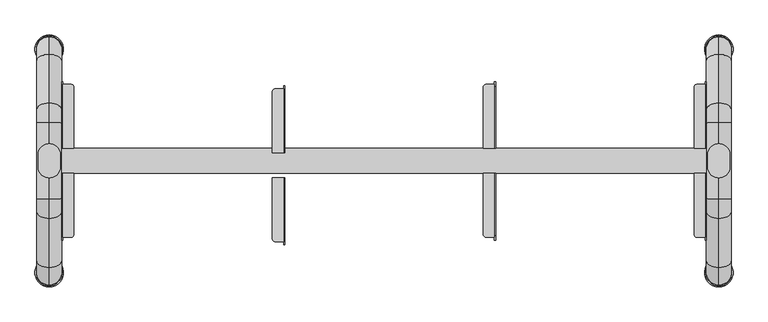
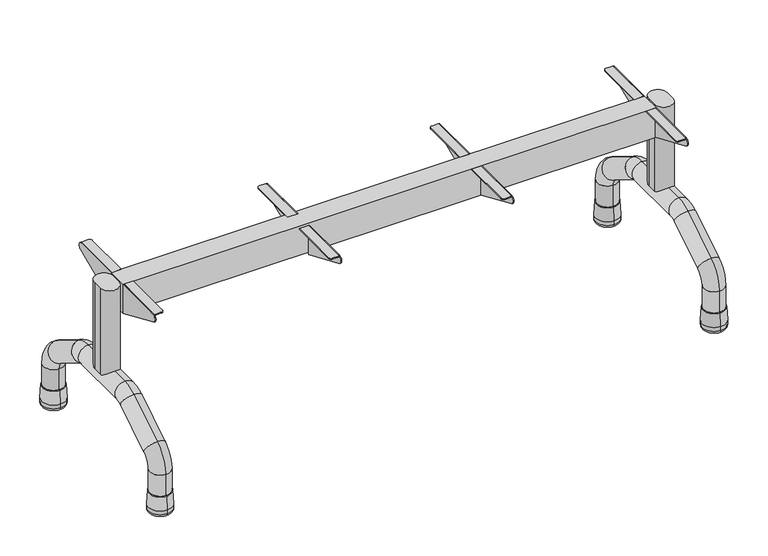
"""IFC4 building model written with IfcOpenShell, lengths in millimetres: furniture geometry, Banco para refeitório : Banco para refeitório 120x30cm cód 40470.4."""

from ifc_helpers import new_model, si_unit, point, frame, frame_2d, origin, place, context, project, spatial, polyline, circle_curve, ellipse_curve, trimmed, segment, composite_curve, outline, extrude, source, transform, mapped, element, save
from ifc_brep_helpers import plane_surface, cylinder_surface, revolved_surface, advanced_brep


def furniture_0d78d3c2(model_context):
    return source(origin(), model_context, "Body", "SolidModel", [
        extrude(outline(composite_curve([segment(trimmed(circle_curve(frame_2d((-540.0, -9.5)), 18.0), [point((-522.0, -9.5))], [point((-558.0, -9.5))], False, "CARTESIAN"), True, "CONTINUOUS"), segment(polyline([(-558.0, -9.5), (-558.0, 9.5)]), True, "CONTINUOUS"), segment(trimmed(circle_curve(frame_2d((-540.0, 9.5)), 18.0), [point((-558.0, 9.5))], [point((-522.0, 9.5))], False, "CARTESIAN"), True, "CONTINUOUS"), segment(polyline([(-522.0, 9.5), (-522.0, -9.5)]), True, "CONTINUOUS")], self_intersect=False)), frame((0.0, 0.0, 175.0), z_axis=(0.0, 0.0, 1.0), x_axis=(1.0, 0.0, 0.0)), (0.0, 0.0, 1.0), 187.0),
        advanced_brep(
        [(-540.0, -160.0, 43.1183008), (-540.0, -200.0, 43.1183008), (-540.0, -160.0, 86.179057), (-540.0, -200.0, 86.179057), (-540.0, -171.6393713, 137.1589568), (-540.0, -150.5464571, 103.1723569), (-540.0, -71.882227, 151.9932999), (-540.0, -92.9751412, 185.9798998), (-540.0, -61.3357699, 195.0), (-540.0, -61.3357699, 155.0), (-540.0, 61.3357699, 155.0), (-540.0, 61.3357699, 195.0), (-540.0, 160.0, 43.1183008), (-540.0, 200.0, 43.1183008), (-540.0, 92.9751412, 185.9798998), (-540.0, 71.882227, 151.9932999), (-540.0, 150.5464571, 103.1723569), (-540.0, 171.6393713, 137.1589568), (-540.0, 200.0, 86.179057), (-540.0, 160.0, 86.179057)],
        [
            (0, 1, circle_curve(frame((-540.0, -180.0, 43.1183008), z_axis=(0.0, 0.0, -1.0), x_axis=(0.0, -1.0, 0.0)), 20.0)),
            (1, 0, circle_curve(frame((-540.0, -180.0, 43.1183008), z_axis=(0.0, 0.0, -1.0), x_axis=(0.0, -1.0, 0.0)), 20.0)),
            (0, 2),
            (2, 3, circle_curve(frame((-540.0, -180.0, 86.179057), z_axis=(0.0, 0.0, -1.0), x_axis=(0.0, -1.0, 0.0)), 20.0)),
            (3, 1),
            (3, 2, circle_curve(frame((-540.0, -180.0, 86.179057), z_axis=(0.0, 0.0, -1.0), x_axis=(0.0, -1.0, 0.0)), 20.0)),
            (4, 5, circle_curve(frame((-540.0, -161.0929142, 120.1656569), z_axis=(0.0, 0.8496649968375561, 0.5273228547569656), x_axis=(0.0, -0.5273228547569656, 0.8496649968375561)), 20.0)),
            (5, 6),
            (6, 7, circle_curve(frame((-540.0, -82.4286841, 168.9865999), z_axis=(0.0, -0.8496649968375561, -0.5273228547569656), x_axis=(0.0, -0.5273228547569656, 0.8496649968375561)), 20.0)),
            (7, 4),
            (5, 4, circle_curve(frame((-540.0, -161.0929142, 120.1656569), z_axis=(0.0, 0.8496649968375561, 0.5273228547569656), x_axis=(0.0, -0.5273228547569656, 0.8496649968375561)), 20.0)),
            (7, 6, circle_curve(frame((-540.0, -82.4286841, 168.9865999), z_axis=(0.0, -0.8496649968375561, -0.5273228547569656), x_axis=(0.0, -0.5273228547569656, 0.8496649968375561)), 20.0)),
            (8, 9, circle_curve(frame((-540.0, -61.3357699, 175.0), z_axis=(0.0, 1.0, 0.0), x_axis=(0.0, 0.0, 1.0)), 20.0)),
            (9, 10),
            (10, 11, circle_curve(frame((-540.0, 61.3357699, 175.0), z_axis=(0.0, -1.0, 0.0), x_axis=(0.0, 0.0, 1.0)), 20.0)),
            (11, 8),
            (9, 8, circle_curve(frame((-540.0, -61.3357699, 175.0), z_axis=(0.0, 1.0, 0.0), x_axis=(0.0, 0.0, 1.0)), 20.0)),
            (11, 10, circle_curve(frame((-540.0, 61.3357699, 175.0), z_axis=(0.0, -1.0, 0.0), x_axis=(0.0, 0.0, 1.0)), 20.0)),
            (12, 13, circle_curve(frame((-540.0, 180.0, 43.1183008), z_axis=(0.0, 0.0, -1.0), x_axis=(0.0, 1.0, 0.0)), 20.0)),
            (13, 12, circle_curve(frame((-540.0, 180.0, 43.1183008), z_axis=(0.0, 0.0, -1.0), x_axis=(0.0, 1.0, 0.0)), 20.0)),
            (4, 3, circle_curve(frame((-540.0, -140.0, 86.179057), z_axis=(1.0, 0.0, 0.0), x_axis=(0.0, -1.0, 0.0)), 60.0)),
            (2, 5, circle_curve(frame((-540.0, -140.0, 86.179057), z_axis=(-1.0, 0.0, 0.0), x_axis=(0.0, -1.0, 0.0)), 20.0)),
            (8, 7, circle_curve(frame((-540.0, -61.3357699, 135.0), z_axis=(1.0, 0.0, 0.0), x_axis=(0.0, -0.5273228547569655, 0.8496649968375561)), 60.0)),
            (6, 9, circle_curve(frame((-540.0, -61.3357699, 135.0), z_axis=(-1.0, 0.0, 0.0), x_axis=(0.0, -0.5273228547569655, 0.8496649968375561)), 20.0)),
            (14, 11, circle_curve(frame((-540.0, 61.3357699, 135.0), z_axis=(1.0, 0.0, 0.0), x_axis=(0.0, 0.0, 1.0)), 60.0)),
            (10, 15, circle_curve(frame((-540.0, 61.3357699, 135.0), z_axis=(-1.0, 0.0, 0.0), x_axis=(0.0, 0.0, 1.0)), 20.0)),
            (15, 14, circle_curve(frame((-540.0, 82.4286841, 168.9865999), z_axis=(0.0, -0.8496649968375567, 0.5273228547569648), x_axis=(0.0, 0.5273228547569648, 0.8496649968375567)), 20.0)),
            (14, 15, circle_curve(frame((-540.0, 82.4286841, 168.9865999), z_axis=(0.0, -0.8496649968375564, 0.5273228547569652), x_axis=(0.0, 0.5273228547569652, 0.8496649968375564)), 20.0)),
            (15, 16),
            (16, 17, circle_curve(frame((-540.0, 161.0929142, 120.1656569), z_axis=(0.0, -0.849664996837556, 0.5273228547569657), x_axis=(0.0, 0.5273228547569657, 0.849664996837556)), 20.0)),
            (17, 14),
            (17, 16, circle_curve(frame((-540.0, 161.0929142, 120.1656569), z_axis=(0.0, -0.849664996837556, 0.5273228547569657), x_axis=(0.0, 0.5273228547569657, 0.849664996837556)), 20.0)),
            (18, 17, circle_curve(frame((-540.0, 140.0, 86.179057), z_axis=(1.0, 0.0, 0.0), x_axis=(0.0, 0.5273228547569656, 0.849664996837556)), 60.0)),
            (16, 19, circle_curve(frame((-540.0, 140.0, 86.179057), z_axis=(-1.0, 0.0, 0.0), x_axis=(0.0, 0.5273228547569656, 0.849664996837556)), 20.0)),
            (19, 18, circle_curve(frame((-540.0, 180.0, 86.179057), z_axis=(0.0, 0.0, 1.0), x_axis=(0.0, 1.0, 0.0)), 20.0)),
            (18, 19, circle_curve(frame((-540.0, 180.0, 86.179057), z_axis=(0.0, 0.0, 1.0), x_axis=(0.0, 1.0, 0.0)), 20.0)),
            (19, 12),
            (13, 18),
        ],
        [
            plane_surface(frame((-1230.0, -180.0, 43.1183008), z_axis=(0.0, 0.0, -1.0), x_axis=(1.0, 0.0, 0.0))),
            cylinder_surface(frame((-540.0, -180.0, 43.1183008), z_axis=(0.0, 0.0, -1.0), x_axis=(0.0, -1.0, 0.0)), 20.0),
            cylinder_surface(frame((-540.0, -161.0929142, 120.1656569), z_axis=(0.0, -0.8496649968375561, -0.5273228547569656), x_axis=(0.0, -0.5273228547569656, 0.8496649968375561)), 20.0),
            cylinder_surface(frame((-540.0, -61.3357699, 175.0), z_axis=(0.0, -1.0, 0.0), x_axis=(0.0, 0.0, 1.0)), 20.0),
            plane_surface(frame((-1230.0, 180.0, 43.1183008), z_axis=(0.0, 0.0, -1.0), x_axis=(1.0, 0.0, 0.0))),
            revolved_surface(trimmed(ellipse_curve(frame((-540.0, -180.0, 86.179057), z_axis=(0.0, 0.0, -1.0), x_axis=(0.0, -1.0, 0.0)), 20.0, 20.0), [point((-540.0, -160.0, 86.179057))], [point((-540.0, -200.0, 86.179057))], True, "CARTESIAN"), (-1230.0, -140.0, 86.179057), (-1.0, 0.0, 0.0)),
            revolved_surface(trimmed(ellipse_curve(frame((-540.0, -180.0, 86.179057), z_axis=(0.0, 0.0, -1.0), x_axis=(0.0, -1.0, 0.0)), 20.0, 20.0), [point((-540.0, -200.0, 86.179057))], [point((-540.0, -160.0, 86.179057))], True, "CARTESIAN"), (-1230.0, -140.0, 86.179057), (-1.0, 0.0, 0.0)),
            revolved_surface(trimmed(ellipse_curve(frame((-540.0, -82.4286841, 168.9865999), z_axis=(0.0, -0.8496649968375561, -0.5273228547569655), x_axis=(0.0, -0.5273228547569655, 0.8496649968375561)), 20.0, 20.0), [point((-540.0, -71.882227, 151.9932999))], [point((-540.0, -92.9751412, 185.9798998))], True, "CARTESIAN"), (-1230.0, -61.3357699, 135.0), (-1.0, 0.0, 0.0)),
            revolved_surface(trimmed(ellipse_curve(frame((-540.0, -82.4286841, 168.9865999), z_axis=(0.0, -0.8496649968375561, -0.5273228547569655), x_axis=(0.0, -0.5273228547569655, 0.8496649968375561)), 20.0, 20.0), [point((-540.0, -92.9751412, 185.9798998))], [point((-540.0, -71.882227, 151.9932999))], True, "CARTESIAN"), (-1230.0, -61.3357699, 135.0), (-1.0, 0.0, 0.0)),
            revolved_surface(trimmed(ellipse_curve(frame((-540.0, 61.3357699, 175.0), z_axis=(0.0, -1.0, 0.0), x_axis=(0.0, 0.0, 1.0)), 20.0, 20.0), [point((-540.0, 61.3357699, 155.0))], [point((-540.0, 61.3357699, 195.0))], True, "CARTESIAN"), (-1230.0, 61.3357699, 135.0), (-1.0, 0.0, 0.0)),
            revolved_surface(trimmed(ellipse_curve(frame((-540.0, 61.3357699, 175.0), z_axis=(0.0, -1.0, 0.0), x_axis=(0.0, 0.0, 1.0)), 20.0, 20.0), [point((-540.0, 61.3357699, 195.0))], [point((-540.0, 61.3357699, 155.0))], True, "CARTESIAN"), (-1230.0, 61.3357699, 135.0), (-1.0, 0.0, 0.0)),
            cylinder_surface(frame((-540.0, 82.4286841, 168.9865999), z_axis=(0.0, -0.849664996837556, 0.5273228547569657), x_axis=(0.0, 0.5273228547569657, 0.849664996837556)), 20.0),
            revolved_surface(trimmed(ellipse_curve(frame((-540.0, 161.0929142, 120.1656569), z_axis=(0.0, -0.8496649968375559, 0.5273228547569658), x_axis=(0.0, 0.5273228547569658, 0.8496649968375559)), 20.0, 20.0), [point((-540.0, 150.5464571, 103.1723569))], [point((-540.0, 171.6393713, 137.1589568))], True, "CARTESIAN"), (-1230.0, 140.0, 86.179057), (-1.0, 0.0, 0.0)),
            revolved_surface(trimmed(ellipse_curve(frame((-540.0, 161.0929142, 120.1656569), z_axis=(0.0, -0.8496649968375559, 0.5273228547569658), x_axis=(0.0, 0.5273228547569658, 0.8496649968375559)), 20.0, 20.0), [point((-540.0, 171.6393713, 137.1589568))], [point((-540.0, 150.5464571, 103.1723569))], True, "CARTESIAN"), (-1230.0, 140.0, 86.179057), (-1.0, 0.0, 0.0)),
            cylinder_surface(frame((-540.0, 180.0, 86.179057), z_axis=(0.0, 0.0, 1.0), x_axis=(0.0, 1.0, 0.0)), 20.0),
        ],
        [
            (0, [[1, 2]]),
            (1, [[-1, 3, 4, 5]]),
            (1, [[-2, -5, 6, -3]]),
            (2, [[7, 8, 9, 10]]),
            (2, [[11, -10, 12, -8]]),
            (3, [[13, 14, 15, 16]]),
            (3, [[17, -16, 18, -14]]),
            (4, [[19, 20]]),
            (5, [[21, -4, 22, -7]]),
            (6, [[-22, -6, -21, -11]]),
            (7, [[23, -9, 24, -13]]),
            (8, [[-24, -12, -23, -17]]),
            (9, [[25, -15, 26, 27]]),
            (10, [[-26, -18, -25, 28]]),
            (11, [[-27, 29, 30, 31]]),
            (11, [[-28, -31, 32, -29]]),
            (12, [[33, -30, 34, 35]]),
            (13, [[-34, -32, -33, 36]]),
            (14, [[-35, 37, -20, 38]]),
            (14, [[-36, -38, -19, -37]]),
        ],
    ),
        extrude(outline(composite_curve([segment(trimmed(circle_curve(frame_2d((540.0, -9.5)), 18.0), [point((558.0, -9.5))], [point((522.0, -9.5))], False, "CARTESIAN"), True, "CONTINUOUS"), segment(polyline([(522.0, -9.5), (522.0, 9.5)]), True, "CONTINUOUS"), segment(trimmed(circle_curve(frame_2d((540.0, 9.5)), 18.0), [point((522.0, 9.5))], [point((558.0, 9.5))], False, "CARTESIAN"), True, "CONTINUOUS"), segment(polyline([(558.0, 9.5), (558.0, -9.5)]), True, "CONTINUOUS")], self_intersect=False)), frame((0.0, 0.0, 175.0), z_axis=(0.0, 0.0, 1.0), x_axis=(1.0, 0.0, 0.0)), (0.0, 0.0, 1.0), 187.0),
        advanced_brep(
        [(540.0, -160.0, 43.1183008), (540.0, -200.0, 43.1183008), (540.0, -160.0, 86.179057), (540.0, -200.0, 86.179057), (540.0, -171.6393713, 137.1589568), (540.0, -150.5464571, 103.1723569), (540.0, -71.882227, 151.9932999), (540.0, -92.9751412, 185.9798998), (540.0, -61.3357699, 195.0), (540.0, -61.3357699, 155.0), (540.0, 61.3357699, 155.0), (540.0, 61.3357699, 195.0), (540.0, 160.0, 43.1183008), (540.0, 200.0, 43.1183008), (540.0, 92.9751412, 185.9798998), (540.0, 71.882227, 151.9932999), (540.0, 150.5464571, 103.1723569), (540.0, 171.6393713, 137.1589568), (540.0, 200.0, 86.179057), (540.0, 160.0, 86.179057)],
        [
            (0, 1, circle_curve(frame((540.0, -180.0, 43.1183008), z_axis=(0.0, 0.0, -1.0), x_axis=(0.0, -1.0, 0.0)), 20.0)),
            (1, 0, circle_curve(frame((540.0, -180.0, 43.1183008), z_axis=(0.0, 0.0, -1.0), x_axis=(0.0, -1.0, 0.0)), 20.0)),
            (0, 2),
            (2, 3, circle_curve(frame((540.0, -180.0, 86.179057), z_axis=(0.0, 0.0, -1.0), x_axis=(0.0, -1.0, 0.0)), 20.0)),
            (3, 1),
            (3, 2, circle_curve(frame((540.0, -180.0, 86.179057), z_axis=(0.0, 0.0, -1.0), x_axis=(0.0, -1.0, 0.0)), 20.0)),
            (4, 5, circle_curve(frame((540.0, -161.0929142, 120.1656569), z_axis=(0.0, 0.8496649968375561, 0.5273228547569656), x_axis=(0.0, -0.5273228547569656, 0.8496649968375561)), 20.0)),
            (5, 6),
            (6, 7, circle_curve(frame((540.0, -82.4286841, 168.9865999), z_axis=(0.0, -0.8496649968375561, -0.5273228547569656), x_axis=(0.0, -0.5273228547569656, 0.8496649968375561)), 20.0)),
            (7, 4),
            (5, 4, circle_curve(frame((540.0, -161.0929142, 120.1656569), z_axis=(0.0, 0.8496649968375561, 0.5273228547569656), x_axis=(0.0, -0.5273228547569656, 0.8496649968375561)), 20.0)),
            (7, 6, circle_curve(frame((540.0, -82.4286841, 168.9865999), z_axis=(0.0, -0.8496649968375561, -0.5273228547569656), x_axis=(0.0, -0.5273228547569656, 0.8496649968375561)), 20.0)),
            (8, 9, circle_curve(frame((540.0, -61.3357699, 175.0), z_axis=(0.0, 1.0, 0.0), x_axis=(0.0, 0.0, 1.0)), 20.0)),
            (9, 10),
            (10, 11, circle_curve(frame((540.0, 61.3357699, 175.0), z_axis=(0.0, -1.0, 0.0), x_axis=(0.0, 0.0, 1.0)), 20.0)),
            (11, 8),
            (9, 8, circle_curve(frame((540.0, -61.3357699, 175.0), z_axis=(0.0, 1.0, 0.0), x_axis=(0.0, 0.0, 1.0)), 20.0)),
            (11, 10, circle_curve(frame((540.0, 61.3357699, 175.0), z_axis=(0.0, -1.0, 0.0), x_axis=(0.0, 0.0, 1.0)), 20.0)),
            (12, 13, circle_curve(frame((540.0, 180.0, 43.1183008), z_axis=(0.0, 0.0, -1.0), x_axis=(0.0, 1.0, 0.0)), 20.0)),
            (13, 12, circle_curve(frame((540.0, 180.0, 43.1183008), z_axis=(0.0, 0.0, -1.0), x_axis=(0.0, 1.0, 0.0)), 20.0)),
            (4, 3, circle_curve(frame((540.0, -140.0, 86.179057), z_axis=(1.0, 0.0, 0.0), x_axis=(0.0, -1.0, 0.0)), 60.0)),
            (2, 5, circle_curve(frame((540.0, -140.0, 86.179057), z_axis=(-1.0, 0.0, 0.0), x_axis=(0.0, -1.0, 0.0)), 20.0)),
            (8, 7, circle_curve(frame((540.0, -61.3357699, 135.0), z_axis=(1.0, 0.0, 0.0), x_axis=(0.0, -0.5273228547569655, 0.8496649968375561)), 60.0)),
            (6, 9, circle_curve(frame((540.0, -61.3357699, 135.0), z_axis=(-1.0, 0.0, 0.0), x_axis=(0.0, -0.5273228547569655, 0.8496649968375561)), 20.0)),
            (14, 11, circle_curve(frame((540.0, 61.3357699, 135.0), z_axis=(1.0, 0.0, 0.0), x_axis=(0.0, 0.0, 1.0)), 60.0)),
            (10, 15, circle_curve(frame((540.0, 61.3357699, 135.0), z_axis=(-1.0, 0.0, 0.0), x_axis=(0.0, 0.0, 1.0)), 20.0)),
            (15, 14, circle_curve(frame((540.0, 82.4286841, 168.9865999), z_axis=(0.0, -0.8496649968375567, 0.5273228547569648), x_axis=(0.0, 0.5273228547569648, 0.8496649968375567)), 20.0)),
            (14, 15, circle_curve(frame((540.0, 82.4286841, 168.9865999), z_axis=(0.0, -0.8496649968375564, 0.5273228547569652), x_axis=(0.0, 0.5273228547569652, 0.8496649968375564)), 20.0)),
            (15, 16),
            (16, 17, circle_curve(frame((540.0, 161.0929142, 120.1656569), z_axis=(0.0, -0.849664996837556, 0.5273228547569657), x_axis=(0.0, 0.5273228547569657, 0.849664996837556)), 20.0)),
            (17, 14),
            (17, 16, circle_curve(frame((540.0, 161.0929142, 120.1656569), z_axis=(0.0, -0.849664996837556, 0.5273228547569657), x_axis=(0.0, 0.5273228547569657, 0.849664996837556)), 20.0)),
            (18, 17, circle_curve(frame((540.0, 140.0, 86.179057), z_axis=(1.0, 0.0, 0.0), x_axis=(0.0, 0.5273228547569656, 0.849664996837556)), 60.0)),
            (16, 19, circle_curve(frame((540.0, 140.0, 86.179057), z_axis=(-1.0, 0.0, 0.0), x_axis=(0.0, 0.5273228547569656, 0.849664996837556)), 20.0)),
            (19, 18, circle_curve(frame((540.0, 180.0, 86.179057), z_axis=(0.0, 0.0, 1.0), x_axis=(0.0, 1.0, 0.0)), 20.0)),
            (18, 19, circle_curve(frame((540.0, 180.0, 86.179057), z_axis=(0.0, 0.0, 1.0), x_axis=(0.0, 1.0, 0.0)), 20.0)),
            (19, 12),
            (13, 18),
        ],
        [
            plane_surface(frame((-150.0, -180.0, 43.1183008), z_axis=(0.0, 0.0, -1.0), x_axis=(1.0, 0.0, 0.0))),
            cylinder_surface(frame((540.0, -180.0, 43.1183008), z_axis=(0.0, 0.0, -1.0), x_axis=(0.0, -1.0, 0.0)), 20.0),
            cylinder_surface(frame((540.0, -161.0929142, 120.1656569), z_axis=(0.0, -0.8496649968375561, -0.5273228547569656), x_axis=(0.0, -0.5273228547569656, 0.8496649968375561)), 20.0),
            cylinder_surface(frame((540.0, -61.3357699, 175.0), z_axis=(0.0, -1.0, 0.0), x_axis=(0.0, 0.0, 1.0)), 20.0),
            plane_surface(frame((-150.0, 180.0, 43.1183008), z_axis=(0.0, 0.0, -1.0), x_axis=(1.0, 0.0, 0.0))),
            revolved_surface(trimmed(ellipse_curve(frame((540.0, -180.0, 86.179057), z_axis=(0.0, 0.0, -1.0), x_axis=(0.0, -1.0, 0.0)), 20.0, 20.0), [point((540.0, -160.0, 86.179057))], [point((540.0, -200.0, 86.179057))], True, "CARTESIAN"), (-150.0, -140.0, 86.179057), (-1.0, 0.0, 0.0)),
            revolved_surface(trimmed(ellipse_curve(frame((540.0, -180.0, 86.179057), z_axis=(0.0, 0.0, -1.0), x_axis=(0.0, -1.0, 0.0)), 20.0, 20.0), [point((540.0, -200.0, 86.179057))], [point((540.0, -160.0, 86.179057))], True, "CARTESIAN"), (-150.0, -140.0, 86.179057), (-1.0, 0.0, 0.0)),
            revolved_surface(trimmed(ellipse_curve(frame((540.0, -82.4286841, 168.9865999), z_axis=(0.0, -0.8496649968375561, -0.5273228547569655), x_axis=(0.0, -0.5273228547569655, 0.8496649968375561)), 20.0, 20.0), [point((540.0, -71.882227, 151.9932999))], [point((540.0, -92.9751412, 185.9798998))], True, "CARTESIAN"), (-150.0, -61.3357699, 135.0), (-1.0, 0.0, 0.0)),
            revolved_surface(trimmed(ellipse_curve(frame((540.0, -82.4286841, 168.9865999), z_axis=(0.0, -0.8496649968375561, -0.5273228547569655), x_axis=(0.0, -0.5273228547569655, 0.8496649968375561)), 20.0, 20.0), [point((540.0, -92.9751412, 185.9798998))], [point((540.0, -71.882227, 151.9932999))], True, "CARTESIAN"), (-150.0, -61.3357699, 135.0), (-1.0, 0.0, 0.0)),
            revolved_surface(trimmed(ellipse_curve(frame((540.0, 61.3357699, 175.0), z_axis=(0.0, -1.0, 0.0), x_axis=(0.0, 0.0, 1.0)), 20.0, 20.0), [point((540.0, 61.3357699, 155.0))], [point((540.0, 61.3357699, 195.0))], True, "CARTESIAN"), (-150.0, 61.3357699, 135.0), (-1.0, 0.0, 0.0)),
            revolved_surface(trimmed(ellipse_curve(frame((540.0, 61.3357699, 175.0), z_axis=(0.0, -1.0, 0.0), x_axis=(0.0, 0.0, 1.0)), 20.0, 20.0), [point((540.0, 61.3357699, 195.0))], [point((540.0, 61.3357699, 155.0))], True, "CARTESIAN"), (-150.0, 61.3357699, 135.0), (-1.0, 0.0, 0.0)),
            cylinder_surface(frame((540.0, 82.4286841, 168.9865999), z_axis=(0.0, -0.849664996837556, 0.5273228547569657), x_axis=(0.0, 0.5273228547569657, 0.849664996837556)), 20.0),
            revolved_surface(trimmed(ellipse_curve(frame((540.0, 161.0929142, 120.1656569), z_axis=(0.0, -0.8496649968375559, 0.5273228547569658), x_axis=(0.0, 0.5273228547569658, 0.8496649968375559)), 20.0, 20.0), [point((540.0, 150.5464571, 103.1723569))], [point((540.0, 171.6393713, 137.1589568))], True, "CARTESIAN"), (-150.0, 140.0, 86.179057), (-1.0, 0.0, 0.0)),
            revolved_surface(trimmed(ellipse_curve(frame((540.0, 161.0929142, 120.1656569), z_axis=(0.0, -0.8496649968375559, 0.5273228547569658), x_axis=(0.0, 0.5273228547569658, 0.8496649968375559)), 20.0, 20.0), [point((540.0, 171.6393713, 137.1589568))], [point((540.0, 150.5464571, 103.1723569))], True, "CARTESIAN"), (-150.0, 140.0, 86.179057), (-1.0, 0.0, 0.0)),
            cylinder_surface(frame((540.0, 180.0, 86.179057), z_axis=(0.0, 0.0, 1.0), x_axis=(0.0, 1.0, 0.0)), 20.0),
        ],
        [
            (0, [[1, 2]]),
            (1, [[-1, 3, 4, 5]]),
            (1, [[-2, -5, 6, -3]]),
            (2, [[7, 8, 9, 10]]),
            (2, [[11, -10, 12, -8]]),
            (3, [[13, 14, 15, 16]]),
            (3, [[17, -16, 18, -14]]),
            (4, [[19, 20]]),
            (5, [[21, -4, 22, -7]]),
            (6, [[-22, -6, -21, -11]]),
            (7, [[23, -9, 24, -13]]),
            (8, [[-24, -12, -23, -17]]),
            (9, [[25, -15, 26, 27]]),
            (10, [[-26, -18, -25, 28]]),
            (11, [[-27, 29, 30, 31]]),
            (11, [[-28, -31, 32, -29]]),
            (12, [[33, -30, 34, 35]]),
            (13, [[-34, -32, -33, 36]]),
            (14, [[-35, 37, -20, 38]]),
            (14, [[-36, -38, -19, -37]]),
        ],
    ),
        advanced_brep(
        [(-540.0, 200.5839249, 42.9792915), (-540.0, 201.212521, 42.3931162), (-540.0, 158.787479, 42.3931162), (-540.0, 159.4160751, 42.9792915), (-540.0, 203.125, 15.0433923), (-540.0, 156.875, 15.0433923), (-540.0, 203.125, 7.2213749), (-540.0, 156.875, 7.2213749), (-540.0, 196.0093092, 0.1056841), (-540.0, 163.9906908, 0.1056841), (-540.0, 180.0, 0.1056841), (-540.0, 180.0, 42.9792915)],
        [
            (0, 1, circle_curve(frame((-540.0, 200.5839249, 42.3491605), z_axis=(-1.0, 0.0, 0.0), x_axis=(0.0, -1.0, 0.0)), 0.630131)),
            (1, 2, circle_curve(frame((-540.0, 180.0, 42.3931162), z_axis=(0.0, 0.0, 1.0), x_axis=(0.0, -1.0, 0.0)), 21.212521)),
            (2, 3, circle_curve(frame((-540.0, 159.4160751, 42.3491605), z_axis=(-1.0, 0.0, 0.0), x_axis=(0.0, 1.0, 0.0)), 0.630131)),
            (3, 0, circle_curve(frame((-540.0, 180.0, 42.9792915), z_axis=(0.0, 0.0, -1.0), x_axis=(0.0, -1.0, 0.0)), 20.5839249)),
            (2, 1, circle_curve(frame((-540.0, 180.0, 42.3931162), z_axis=(0.0, 0.0, 1.0), x_axis=(0.0, -1.0, 0.0)), 21.212521)),
            (0, 3, circle_curve(frame((-540.0, 180.0, 42.9792915), z_axis=(0.0, 0.0, -1.0), x_axis=(0.0, -1.0, 0.0)), 20.5839249)),
            (1, 4),
            (4, 5, circle_curve(frame((-540.0, 180.0, 15.0433923), z_axis=(0.0, 0.0, 1.0), x_axis=(0.0, -1.0, 0.0)), 23.125)),
            (5, 2),
            (5, 4, circle_curve(frame((-540.0, 180.0, 15.0433923), z_axis=(0.0, 0.0, 1.0), x_axis=(0.0, -1.0, 0.0)), 23.125)),
            (4, 6),
            (6, 7, circle_curve(frame((-540.0, 180.0, 7.2213749), z_axis=(0.0, 0.0, 1.0), x_axis=(0.0, -1.0, 0.0)), 23.125)),
            (7, 5),
            (7, 6, circle_curve(frame((-540.0, 180.0, 7.2213749), z_axis=(0.0, 0.0, 1.0), x_axis=(0.0, -1.0, 0.0)), 23.125)),
            (6, 8, circle_curve(frame((-540.0, 196.0093092, 7.2213749), z_axis=(-1.0, 0.0, 0.0), x_axis=(0.0, -1.0, 0.0)), 7.1156908)),
            (8, 9, circle_curve(frame((-540.0, 180.0, 0.1056841), z_axis=(0.0, 0.0, 1.0), x_axis=(0.0, -1.0, 0.0)), 16.0093092)),
            (9, 7, circle_curve(frame((-540.0, 163.9906908, 7.2213749), z_axis=(-1.0, 0.0, 0.0), x_axis=(0.0, 1.0, 0.0)), 7.1156908)),
            (9, 8, circle_curve(frame((-540.0, 180.0, 0.1056841), z_axis=(0.0, 0.0, 1.0), x_axis=(0.0, -1.0, 0.0)), 16.0093092)),
            (8, 10),
            (10, 9),
            (11, 0),
            (3, 11),
        ],
        [
            revolved_surface(trimmed(ellipse_curve(frame((-540.0, 159.4160751, 42.3491605), z_axis=(-1.0, 0.0, 0.0), x_axis=(0.0, 1.0, 0.0)), 0.630131, 0.630131), [point((-540.0, 158.787479, 42.3931162))], [point((-540.0, 159.4160751, 42.9792915))], True, "CARTESIAN"), (-540.0, 180.0, 0.1056841), (0.0, 0.0, 1.0)),
            revolved_surface(polyline([(-540.0, 156.875, 15.0433923), (-540.0, 158.787479, 42.3931162)]), (-540.0, 180.0, 0.1056841), (0.0, 0.0, 1.0)),
            cylinder_surface(frame((-540.0, 180.0, 0.1056841), z_axis=(0.0, 0.0, 1.0), x_axis=(0.0, -1.0, 0.0)), 23.125),
            revolved_surface(trimmed(ellipse_curve(frame((-540.0, 163.9906908, 7.2213749), z_axis=(-1.0, 0.0, 0.0), x_axis=(0.0, 1.0, 0.0)), 7.1156908, 7.1156908), [point((-540.0, 163.9906908, 0.1056841))], [point((-540.0, 156.875, 7.2213749))], True, "CARTESIAN"), (-540.0, 180.0, 0.1056841), (0.0, 0.0, 1.0)),
            plane_surface(frame((-540.0, 180.0, 0.1056841), z_axis=(0.0, 0.0, -1.0), x_axis=(0.0, -1.0, 0.0))),
            plane_surface(frame((-540.0, 180.0, 42.9792915), z_axis=(0.0, 0.0, 1.0), x_axis=(0.0, -1.0, 0.0))),
        ],
        [
            (0, [[1, 2, 3, 4]]),
            (0, [[-3, 5, -1, 6]]),
            (1, [[7, 8, 9, -2]]),
            (1, [[-9, 10, -7, -5]]),
            (2, [[11, 12, 13, -8]]),
            (2, [[-13, 14, -11, -10]]),
            (3, [[15, 16, 17, -12]]),
            (3, [[-17, 18, -15, -14]]),
            (4, [[19, 20, -16]]),
            (4, [[-20, -19, -18]]),
            (5, [[21, -4, 22]]),
            (5, [[-22, -6, -21]]),
        ],
    ),
        advanced_brep(
        [(-540.0, -159.4160751, 42.9792915), (-540.0, -158.787479, 42.3931162), (-540.0, -201.212521, 42.3931162), (-540.0, -200.5839249, 42.9792915), (-540.0, -156.875, 15.0433923), (-540.0, -203.125, 15.0433923), (-540.0, -156.875, 7.2213749), (-540.0, -203.125, 7.2213749), (-540.0, -163.9906908, 0.1056841), (-540.0, -196.0093092, 0.1056841), (-540.0, -180.0, 0.1056841), (-540.0, -180.0, 42.9792915)],
        [
            (0, 1, circle_curve(frame((-540.0, -159.4160751, 42.3491605), z_axis=(-1.0, 0.0, 0.0), x_axis=(0.0, -1.0, 0.0)), 0.630131)),
            (1, 2, circle_curve(frame((-540.0, -180.0, 42.3931162), z_axis=(0.0, 0.0, 1.0), x_axis=(0.0, -1.0, 0.0)), 21.212521)),
            (2, 3, circle_curve(frame((-540.0, -200.5839249, 42.3491605), z_axis=(-1.0, 0.0, 0.0), x_axis=(0.0, 1.0, 0.0)), 0.630131)),
            (3, 0, circle_curve(frame((-540.0, -180.0, 42.9792915), z_axis=(0.0, 0.0, -1.0), x_axis=(0.0, -1.0, 0.0)), 20.5839249)),
            (2, 1, circle_curve(frame((-540.0, -180.0, 42.3931162), z_axis=(0.0, 0.0, 1.0), x_axis=(0.0, -1.0, 0.0)), 21.212521)),
            (0, 3, circle_curve(frame((-540.0, -180.0, 42.9792915), z_axis=(0.0, 0.0, -1.0), x_axis=(0.0, -1.0, 0.0)), 20.5839249)),
            (1, 4),
            (4, 5, circle_curve(frame((-540.0, -180.0, 15.0433923), z_axis=(0.0, 0.0, 1.0), x_axis=(0.0, -1.0, 0.0)), 23.125)),
            (5, 2),
            (5, 4, circle_curve(frame((-540.0, -180.0, 15.0433923), z_axis=(0.0, 0.0, 1.0), x_axis=(0.0, -1.0, 0.0)), 23.125)),
            (4, 6),
            (6, 7, circle_curve(frame((-540.0, -180.0, 7.2213749), z_axis=(0.0, 0.0, 1.0), x_axis=(0.0, -1.0, 0.0)), 23.125)),
            (7, 5),
            (7, 6, circle_curve(frame((-540.0, -180.0, 7.2213749), z_axis=(0.0, 0.0, 1.0), x_axis=(0.0, -1.0, 0.0)), 23.125)),
            (6, 8, circle_curve(frame((-540.0, -163.9906908, 7.2213749), z_axis=(-1.0, 0.0, 0.0), x_axis=(0.0, -1.0, 0.0)), 7.1156908)),
            (8, 9, circle_curve(frame((-540.0, -180.0, 0.1056841), z_axis=(0.0, 0.0, 1.0), x_axis=(0.0, -1.0, 0.0)), 16.0093092)),
            (9, 7, circle_curve(frame((-540.0, -196.0093092, 7.2213749), z_axis=(-1.0, 0.0, 0.0), x_axis=(0.0, 1.0, 0.0)), 7.1156908)),
            (9, 8, circle_curve(frame((-540.0, -180.0, 0.1056841), z_axis=(0.0, 0.0, 1.0), x_axis=(0.0, -1.0, 0.0)), 16.0093092)),
            (8, 10),
            (10, 9),
            (11, 0),
            (3, 11),
        ],
        [
            revolved_surface(trimmed(ellipse_curve(frame((-540.0, -200.5839249, 42.3491605), z_axis=(-1.0, 0.0, 0.0), x_axis=(0.0, 1.0, 0.0)), 0.630131, 0.630131), [point((-540.0, -201.212521, 42.3931162))], [point((-540.0, -200.5839249, 42.9792915))], True, "CARTESIAN"), (-540.0, -180.0, 0.1056841), (0.0, 0.0, 1.0)),
            revolved_surface(polyline([(-540.0, -203.125, 15.0433923), (-540.0, -201.212521, 42.3931162)]), (-540.0, -180.0, 0.1056841), (0.0, 0.0, 1.0)),
            cylinder_surface(frame((-540.0, -180.0, 0.1056841), z_axis=(0.0, 0.0, 1.0), x_axis=(0.0, -1.0, 0.0)), 23.125),
            revolved_surface(trimmed(ellipse_curve(frame((-540.0, -196.0093092, 7.2213749), z_axis=(-1.0, 0.0, 0.0), x_axis=(0.0, 1.0, 0.0)), 7.1156908, 7.1156908), [point((-540.0, -196.0093092, 0.1056841))], [point((-540.0, -203.125, 7.2213749))], True, "CARTESIAN"), (-540.0, -180.0, 0.1056841), (0.0, 0.0, 1.0)),
            plane_surface(frame((-540.0, -180.0, 0.1056841), z_axis=(0.0, 0.0, -1.0), x_axis=(0.0, -1.0, 0.0))),
            plane_surface(frame((-540.0, -180.0, 42.9792915), z_axis=(0.0, 0.0, 1.0), x_axis=(0.0, -1.0, 0.0))),
        ],
        [
            (0, [[1, 2, 3, 4]]),
            (0, [[-3, 5, -1, 6]]),
            (1, [[7, 8, 9, -2]]),
            (1, [[-9, 10, -7, -5]]),
            (2, [[11, 12, 13, -8]]),
            (2, [[-13, 14, -11, -10]]),
            (3, [[15, 16, 17, -12]]),
            (3, [[-17, 18, -15, -14]]),
            (4, [[19, 20, -16]]),
            (4, [[-20, -19, -18]]),
            (5, [[21, -4, 22]]),
            (5, [[-22, -6, -21]]),
        ],
    ),
        advanced_brep(
        [(540.0, 200.5839249, 42.9792915), (540.0, 159.4160751, 42.9792915), (540.0, 158.787479, 42.3931162), (540.0, 201.212521, 42.3931162), (540.0, 156.875, 15.0433923), (540.0, 203.125, 15.0433923), (540.0, 156.875, 7.2213749), (540.0, 203.125, 7.2213749), (540.0, 163.9906908, 0.1056841), (540.0, 196.0093092, 0.1056841), (540.0, 180.0, 0.1056841), (540.0, 180.0, 42.9792915)],
        [
            (0, 1, circle_curve(frame((540.0, 180.0, 42.9792915), z_axis=(0.0, 0.0, -1.0), x_axis=(0.0, -1.0, 0.0)), 20.5839249)),
            (1, 2, circle_curve(frame((540.0, 159.4160751, 42.3491605), z_axis=(1.0, 0.0, 0.0), x_axis=(0.0, 1.0, 0.0)), 0.630131)),
            (2, 3, circle_curve(frame((540.0, 180.0, 42.3931162), z_axis=(0.0, 0.0, 1.0), x_axis=(0.0, -1.0, 0.0)), 21.212521)),
            (3, 0, circle_curve(frame((540.0, 200.5839249, 42.3491605), z_axis=(1.0, 0.0, 0.0), x_axis=(0.0, -1.0, 0.0)), 0.630131)),
            (1, 0, circle_curve(frame((540.0, 180.0, 42.9792915), z_axis=(0.0, 0.0, -1.0), x_axis=(0.0, -1.0, 0.0)), 20.5839249)),
            (3, 2, circle_curve(frame((540.0, 180.0, 42.3931162), z_axis=(0.0, 0.0, 1.0), x_axis=(0.0, -1.0, 0.0)), 21.212521)),
            (2, 4),
            (4, 5, circle_curve(frame((540.0, 180.0, 15.0433923), z_axis=(0.0, 0.0, 1.0), x_axis=(0.0, -1.0, 0.0)), 23.125)),
            (5, 3),
            (5, 4, circle_curve(frame((540.0, 180.0, 15.0433923), z_axis=(0.0, 0.0, 1.0), x_axis=(0.0, -1.0, 0.0)), 23.125)),
            (4, 6),
            (6, 7, circle_curve(frame((540.0, 180.0, 7.2213749), z_axis=(0.0, 0.0, 1.0), x_axis=(0.0, -1.0, 0.0)), 23.125)),
            (7, 5),
            (7, 6, circle_curve(frame((540.0, 180.0, 7.2213749), z_axis=(0.0, 0.0, 1.0), x_axis=(0.0, -1.0, 0.0)), 23.125)),
            (6, 8, circle_curve(frame((540.0, 163.9906908, 7.2213749), z_axis=(1.0, 0.0, 0.0), x_axis=(0.0, 1.0, 0.0)), 7.1156908)),
            (8, 9, circle_curve(frame((540.0, 180.0, 0.1056841), z_axis=(0.0, 0.0, 1.0), x_axis=(0.0, -1.0, 0.0)), 16.0093092)),
            (9, 7, circle_curve(frame((540.0, 196.0093092, 7.2213749), z_axis=(1.0, 0.0, 0.0), x_axis=(0.0, -1.0, 0.0)), 7.1156908)),
            (9, 8, circle_curve(frame((540.0, 180.0, 0.1056841), z_axis=(0.0, 0.0, 1.0), x_axis=(0.0, -1.0, 0.0)), 16.0093092)),
            (8, 10),
            (10, 9),
            (11, 1),
            (0, 11),
        ],
        [
            revolved_surface(trimmed(ellipse_curve(frame((540.0, 159.4160751, 42.3491605), z_axis=(-1.0, 0.0, 0.0), x_axis=(0.0, 1.0, 0.0)), 0.630131, 0.630131), [point((540.0, 158.787479, 42.3931162))], [point((540.0, 159.4160751, 42.9792915))], True, "CARTESIAN"), (540.0, 180.0, 0.1056841), (0.0, 0.0, 1.0)),
            revolved_surface(polyline([(540.0, 156.875, 15.0433923), (540.0, 158.787479, 42.3931162)]), (540.0, 180.0, 0.1056841), (0.0, 0.0, 1.0)),
            cylinder_surface(frame((540.0, 180.0, 0.1056841), z_axis=(0.0, 0.0, 1.0), x_axis=(0.0, -1.0, 0.0)), 23.125),
            revolved_surface(trimmed(ellipse_curve(frame((540.0, 163.9906908, 7.2213749), z_axis=(-1.0, 0.0, 0.0), x_axis=(0.0, 1.0, 0.0)), 7.1156908, 7.1156908), [point((540.0, 163.9906908, 0.1056841))], [point((540.0, 156.875, 7.2213749))], True, "CARTESIAN"), (540.0, 180.0, 0.1056841), (0.0, 0.0, 1.0)),
            plane_surface(frame((540.0, 180.0, 0.1056841), z_axis=(0.0, 0.0, -1.0), x_axis=(0.0, -1.0, 0.0))),
            plane_surface(frame((540.0, 180.0, 42.9792915), z_axis=(0.0, 0.0, 1.0), x_axis=(0.0, -1.0, 0.0))),
        ],
        [
            (0, [[1, 2, 3, 4]]),
            (0, [[5, -4, 6, -2]]),
            (1, [[-3, 7, 8, 9]]),
            (1, [[-6, -9, 10, -7]]),
            (2, [[-8, 11, 12, 13]]),
            (2, [[-10, -13, 14, -11]]),
            (3, [[-12, 15, 16, 17]]),
            (3, [[-14, -17, 18, -15]]),
            (4, [[-16, 19, 20]]),
            (4, [[-18, -20, -19]]),
            (5, [[21, -1, 22]]),
            (5, [[-22, -5, -21]]),
        ],
    ),
        advanced_brep(
        [(540.0, -159.4160751, 42.9792915), (540.0, -200.5839249, 42.9792915), (540.0, -201.212521, 42.3931162), (540.0, -158.787479, 42.3931162), (540.0, -203.125, 15.0433923), (540.0, -156.875, 15.0433923), (540.0, -203.125, 7.2213749), (540.0, -156.875, 7.2213749), (540.0, -196.0093092, 0.1056841), (540.0, -163.9906908, 0.1056841), (540.0, -180.0, 0.1056841), (540.0, -180.0, 42.9792915)],
        [
            (0, 1, circle_curve(frame((540.0, -180.0, 42.9792915), z_axis=(0.0, 0.0, -1.0), x_axis=(0.0, -1.0, 0.0)), 20.5839249)),
            (1, 2, circle_curve(frame((540.0, -200.5839249, 42.3491605), z_axis=(1.0, 0.0, 0.0), x_axis=(0.0, 1.0, 0.0)), 0.630131)),
            (2, 3, circle_curve(frame((540.0, -180.0, 42.3931162), z_axis=(0.0, 0.0, 1.0), x_axis=(0.0, -1.0, 0.0)), 21.212521)),
            (3, 0, circle_curve(frame((540.0, -159.4160751, 42.3491605), z_axis=(1.0, 0.0, 0.0), x_axis=(0.0, -1.0, 0.0)), 0.630131)),
            (1, 0, circle_curve(frame((540.0, -180.0, 42.9792915), z_axis=(0.0, 0.0, -1.0), x_axis=(0.0, -1.0, 0.0)), 20.5839249)),
            (3, 2, circle_curve(frame((540.0, -180.0, 42.3931162), z_axis=(0.0, 0.0, 1.0), x_axis=(0.0, -1.0, 0.0)), 21.212521)),
            (2, 4),
            (4, 5, circle_curve(frame((540.0, -180.0, 15.0433923), z_axis=(0.0, 0.0, 1.0), x_axis=(0.0, -1.0, 0.0)), 23.125)),
            (5, 3),
            (5, 4, circle_curve(frame((540.0, -180.0, 15.0433923), z_axis=(0.0, 0.0, 1.0), x_axis=(0.0, -1.0, 0.0)), 23.125)),
            (4, 6),
            (6, 7, circle_curve(frame((540.0, -180.0, 7.2213749), z_axis=(0.0, 0.0, 1.0), x_axis=(0.0, -1.0, 0.0)), 23.125)),
            (7, 5),
            (7, 6, circle_curve(frame((540.0, -180.0, 7.2213749), z_axis=(0.0, 0.0, 1.0), x_axis=(0.0, -1.0, 0.0)), 23.125)),
            (6, 8, circle_curve(frame((540.0, -196.0093092, 7.2213749), z_axis=(1.0, 0.0, 0.0), x_axis=(0.0, 1.0, 0.0)), 7.1156908)),
            (8, 9, circle_curve(frame((540.0, -180.0, 0.1056841), z_axis=(0.0, 0.0, 1.0), x_axis=(0.0, -1.0, 0.0)), 16.0093092)),
            (9, 7, circle_curve(frame((540.0, -163.9906908, 7.2213749), z_axis=(1.0, 0.0, 0.0), x_axis=(0.0, -1.0, 0.0)), 7.1156908)),
            (9, 8, circle_curve(frame((540.0, -180.0, 0.1056841), z_axis=(0.0, 0.0, 1.0), x_axis=(0.0, -1.0, 0.0)), 16.0093092)),
            (8, 10),
            (10, 9),
            (11, 1),
            (0, 11),
        ],
        [
            revolved_surface(trimmed(ellipse_curve(frame((540.0, -200.5839249, 42.3491605), z_axis=(-1.0, 0.0, 0.0), x_axis=(0.0, 1.0, 0.0)), 0.630131, 0.630131), [point((540.0, -201.212521, 42.3931162))], [point((540.0, -200.5839249, 42.9792915))], True, "CARTESIAN"), (540.0, -180.0, 0.1056841), (0.0, 0.0, 1.0)),
            revolved_surface(polyline([(540.0, -203.125, 15.0433923), (540.0, -201.212521, 42.3931162)]), (540.0, -180.0, 0.1056841), (0.0, 0.0, 1.0)),
            cylinder_surface(frame((540.0, -180.0, 0.1056841), z_axis=(0.0, 0.0, 1.0), x_axis=(0.0, -1.0, 0.0)), 23.125),
            revolved_surface(trimmed(ellipse_curve(frame((540.0, -196.0093092, 7.2213749), z_axis=(-1.0, 0.0, 0.0), x_axis=(0.0, 1.0, 0.0)), 7.1156908, 7.1156908), [point((540.0, -196.0093092, 0.1056841))], [point((540.0, -203.125, 7.2213749))], True, "CARTESIAN"), (540.0, -180.0, 0.1056841), (0.0, 0.0, 1.0)),
            plane_surface(frame((540.0, -180.0, 0.1056841), z_axis=(0.0, 0.0, -1.0), x_axis=(0.0, -1.0, 0.0))),
            plane_surface(frame((540.0, -180.0, 42.9792915), z_axis=(0.0, 0.0, 1.0), x_axis=(0.0, -1.0, 0.0))),
        ],
        [
            (0, [[1, 2, 3, 4]]),
            (0, [[5, -4, 6, -2]]),
            (1, [[-3, 7, 8, 9]]),
            (1, [[-6, -9, 10, -7]]),
            (2, [[-8, 11, 12, 13]]),
            (2, [[-10, -13, 14, -11]]),
            (3, [[-12, 15, 16, 17]]),
            (3, [[-14, -17, 18, -15]]),
            (4, [[-16, 19, 20]]),
            (4, [[-18, -20, -19]]),
            (5, [[21, -1, 22]]),
            (5, [[-22, -5, -21]]),
        ],
    ),
        extrude(outline(composite_curve([segment(polyline([(-162.0, -27.0176362), (-162.0, -130.2831504), (-175.0, -130.2831504)]), True, "CONTINUOUS"), segment(trimmed(circle_curve(frame_2d((-175.0, -125.2831504)), 5.0), [point((-175.0, -130.2831504))], [point((-180.0, -125.2831504))], False, "CARTESIAN"), True, "CONTINUOUS"), segment(polyline([(-180.0, -125.2831504), (-180.0, -27.0176362), (-162.0, -27.0176362)]), True, "CONTINUOUS")], self_intersect=False)), frame((0.0, 0.0, 360.0), z_axis=(0.0, 0.0, 1.0), x_axis=(1.0, 0.0, 0.0)), (0.0, 0.0, 1.0), 2.0),
        extrude(outline(composite_curve([segment(polyline([(-162.0, 12.9823638), (-180.0, 12.9823638), (-180.0, 111.247878)]), True, "CONTINUOUS"), segment(trimmed(circle_curve(frame_2d((-175.0, 111.247878)), 5.0), [point((-180.0, 111.247878))], [point((-175.0, 116.247878))], False, "CARTESIAN"), True, "CONTINUOUS"), segment(polyline([(-175.0, 116.247878), (-162.0, 116.247878), (-162.0, 12.9823638)]), True, "CONTINUOUS")], self_intersect=False)), frame((0.0, 0.0, 360.0), z_axis=(0.0, 0.0, 1.0), x_axis=(1.0, 0.0, 0.0)), (0.0, 0.0, 1.0), 2.0),
        extrude(outline(composite_curve([segment(polyline([(178.0, -20.0), (178.0, -123.2655142), (165.0, -123.2655142)]), True, "CONTINUOUS"), segment(trimmed(circle_curve(frame_2d((165.0, -118.2655142)), 5.0), [point((165.0, -123.2655142))], [point((160.0, -118.2655142))], False, "CARTESIAN"), True, "CONTINUOUS"), segment(polyline([(160.0, -118.2655142), (160.0, -20.0), (178.0, -20.0)]), True, "CONTINUOUS")], self_intersect=False)), frame((0.0, 0.0, 360.0), z_axis=(0.0, 0.0, 1.0), x_axis=(1.0, 0.0, 0.0)), (0.0, 0.0, 1.0), 2.0),
        extrude(outline(composite_curve([segment(polyline([(178.0, 20.0), (160.0, 20.0), (160.0, 118.2655142)]), True, "CONTINUOUS"), segment(trimmed(circle_curve(frame_2d((165.0, 118.2655142)), 5.0), [point((160.0, 118.2655142))], [point((165.0, 123.2655142))], False, "CARTESIAN"), True, "CONTINUOUS"), segment(polyline([(165.0, 123.2655142), (178.0, 123.2655142), (178.0, 20.0)]), True, "CONTINUOUS")], self_intersect=False)), frame((0.0, 0.0, 360.0), z_axis=(0.0, 0.0, 1.0), x_axis=(1.0, 0.0, 0.0)), (0.0, 0.0, 1.0), 2.0),
        extrude(outline(composite_curve([segment(polyline([(20.0, 302.0), (20.0, 362.0), (119.863874, 362.0)]), True, "CONTINUOUS"), segment(trimmed(circle_curve(frame_2d((119.863874, 353.9510336)), 8.0489664), [point((119.863874, 362.0))], [point((123.2655142, 346.6561926))], False, "CARTESIAN"), True, "CONTINUOUS"), segment(polyline([(123.2655142, 346.6561926), (20.0, 302.0)]), True, "CONTINUOUS")], self_intersect=False)), frame((178.0, 0.0, 0.0), z_axis=(1.0, 0.0, 0.0), x_axis=(0.0, 1.0, 0.0)), (0.0, 0.0, 1.0), 2.0),
        extrude(outline(composite_curve([segment(polyline([(-20.0, 302.0), (-123.2655142, 346.6561926)]), True, "CONTINUOUS"), segment(trimmed(circle_curve(frame_2d((-119.863874, 353.9510336)), 8.0489664), [point((-123.2655142, 346.6561926))], [point((-119.863874, 362.0))], False, "CARTESIAN"), True, "CONTINUOUS"), segment(polyline([(-119.863874, 362.0), (-20.0, 362.0), (-20.0, 302.0)]), True, "CONTINUOUS")], self_intersect=False)), frame((178.0, 0.0, 0.0), z_axis=(1.0, 0.0, 0.0), x_axis=(0.0, 1.0, 0.0)), (0.0, 0.0, 1.0), 2.0),
        extrude(outline(composite_curve([segment(polyline([(12.9823638, 302.0), (12.9823638, 362.0), (112.8462378, 362.0)]), True, "CONTINUOUS"), segment(trimmed(circle_curve(frame_2d((112.8462378, 353.9510336)), 8.0489664), [point((112.8462378, 362.0))], [point((116.247878, 346.6561926))], False, "CARTESIAN"), True, "CONTINUOUS"), segment(polyline([(116.247878, 346.6561926), (12.9823638, 302.0)]), True, "CONTINUOUS")], self_intersect=False)), frame((-162.0, 0.0, 0.0), z_axis=(1.0, 0.0, 0.0), x_axis=(0.0, 1.0, 0.0)), (0.0, 0.0, 1.0), 2.0),
        extrude(outline(composite_curve([segment(polyline([(-27.0176362, 302.0), (-130.2831504, 346.6561926)]), True, "CONTINUOUS"), segment(trimmed(circle_curve(frame_2d((-126.8815102, 353.9510336)), 8.0489664), [point((-130.2831504, 346.6561926))], [point((-126.8815102, 362.0))], False, "CARTESIAN"), True, "CONTINUOUS"), segment(polyline([(-126.8815102, 362.0), (-27.0176362, 362.0), (-27.0176362, 302.0)]), True, "CONTINUOUS")], self_intersect=False)), frame((-162.0, 0.0, 0.0), z_axis=(1.0, 0.0, 0.0), x_axis=(0.0, 1.0, 0.0)), (0.0, 0.0, 1.0), 2.0),
        extrude(outline(composite_curve([segment(polyline([(518.0, -20.0), (518.0, -123.2655142), (505.0, -123.2655142)]), True, "CONTINUOUS"), segment(trimmed(circle_curve(frame_2d((505.0, -118.2655142)), 5.0), [point((505.0, -123.2655142))], [point((500.0, -118.2655142))], False, "CARTESIAN"), True, "CONTINUOUS"), segment(polyline([(500.0, -118.2655142), (500.0, -20.0), (518.0, -20.0)]), True, "CONTINUOUS")], self_intersect=False)), frame((0.0, 0.0, 360.0), z_axis=(0.0, 0.0, 1.0), x_axis=(1.0, 0.0, 0.0)), (0.0, 0.0, 1.0), 2.0),
        extrude(outline(composite_curve([segment(polyline([(518.0, 20.0), (500.0, 20.0), (500.0, 118.2655142)]), True, "CONTINUOUS"), segment(trimmed(circle_curve(frame_2d((505.0, 118.2655142)), 5.0), [point((500.0, 118.2655142))], [point((505.0, 123.2655142))], False, "CARTESIAN"), True, "CONTINUOUS"), segment(polyline([(505.0, 123.2655142), (518.0, 123.2655142), (518.0, 20.0)]), True, "CONTINUOUS")], self_intersect=False)), frame((0.0, 0.0, 360.0), z_axis=(0.0, 0.0, 1.0), x_axis=(1.0, 0.0, 0.0)), (0.0, 0.0, 1.0), 2.0),
        extrude(outline(composite_curve([segment(polyline([(-518.0, -20.0), (-500.0, -20.0), (-500.0, -118.2655142)]), True, "CONTINUOUS"), segment(trimmed(circle_curve(frame_2d((-505.0, -118.2655142)), 5.0), [point((-500.0, -118.2655142))], [point((-505.0, -123.2655142))], False, "CARTESIAN"), True, "CONTINUOUS"), segment(polyline([(-505.0, -123.2655142), (-518.0, -123.2655142), (-518.0, -20.0)]), True, "CONTINUOUS")], self_intersect=False)), frame((0.0, 0.0, 360.0), z_axis=(0.0, 0.0, 1.0), x_axis=(1.0, 0.0, 0.0)), (0.0, 0.0, 1.0), 2.0),
        extrude(outline(composite_curve([segment(polyline([(-518.0, 20.0), (-518.0, 123.2655142), (-505.0, 123.2655142)]), True, "CONTINUOUS"), segment(trimmed(circle_curve(frame_2d((-505.0, 118.2655142)), 5.0), [point((-505.0, 123.2655142))], [point((-500.0, 118.2655142))], False, "CARTESIAN"), True, "CONTINUOUS"), segment(polyline([(-500.0, 118.2655142), (-500.0, 20.0), (-518.0, 20.0)]), True, "CONTINUOUS")], self_intersect=False)), frame((0.0, 0.0, 360.0), z_axis=(0.0, 0.0, 1.0), x_axis=(1.0, 0.0, 0.0)), (0.0, 0.0, 1.0), 2.0),
        extrude(outline(composite_curve([segment(polyline([(20.0, 302.0), (20.0, 362.0), (119.863874, 362.0)]), True, "CONTINUOUS"), segment(trimmed(circle_curve(frame_2d((119.863874, 353.9510336)), 8.0489664), [point((119.863874, 362.0))], [point((123.2655142, 346.6561926))], False, "CARTESIAN"), True, "CONTINUOUS"), segment(polyline([(123.2655142, 346.6561926), (20.0, 302.0)]), True, "CONTINUOUS")], self_intersect=False)), frame((-520.0, 0.0, 0.0), z_axis=(1.0, 0.0, 0.0), x_axis=(0.0, 1.0, 0.0)), (0.0, 0.0, 1.0), 2.0),
        extrude(outline(composite_curve([segment(polyline([(-20.0, 302.0), (-123.2655142, 346.6561926)]), True, "CONTINUOUS"), segment(trimmed(circle_curve(frame_2d((-119.863874, 353.9510336)), 8.0489664), [point((-123.2655142, 346.6561926))], [point((-119.863874, 362.0))], False, "CARTESIAN"), True, "CONTINUOUS"), segment(polyline([(-119.863874, 362.0), (-20.0, 362.0), (-20.0, 302.0)]), True, "CONTINUOUS")], self_intersect=False)), frame((-520.0, 0.0, 0.0), z_axis=(1.0, 0.0, 0.0), x_axis=(0.0, 1.0, 0.0)), (0.0, 0.0, 1.0), 2.0),
        extrude(outline(composite_curve([segment(polyline([(20.0, 302.0), (20.0, 362.0), (119.863874, 362.0)]), True, "CONTINUOUS"), segment(trimmed(circle_curve(frame_2d((119.863874, 353.9510336)), 8.0489664), [point((119.863874, 362.0))], [point((123.2655142, 346.6561926))], False, "CARTESIAN"), True, "CONTINUOUS"), segment(polyline([(123.2655142, 346.6561926), (20.0, 302.0)]), True, "CONTINUOUS")], self_intersect=False)), frame((518.0, 0.0, 0.0), z_axis=(1.0, 0.0, 0.0), x_axis=(0.0, 1.0, 0.0)), (0.0, 0.0, 1.0), 2.0),
        extrude(outline(composite_curve([segment(polyline([(-20.0, 302.0), (-123.2655142, 346.6561926)]), True, "CONTINUOUS"), segment(trimmed(circle_curve(frame_2d((-119.863874, 353.9510336)), 8.0489664), [point((-123.2655142, 346.6561926))], [point((-119.863874, 362.0))], False, "CARTESIAN"), True, "CONTINUOUS"), segment(polyline([(-119.863874, 362.0), (-20.0, 362.0), (-20.0, 302.0)]), True, "CONTINUOUS")], self_intersect=False)), frame((518.0, 0.0, 0.0), z_axis=(1.0, 0.0, 0.0), x_axis=(0.0, 1.0, 0.0)), (0.0, 0.0, 1.0), 2.0),
        extrude(outline(polyline([(520.0, -20.0), (-520.0, -20.0), (-520.0, 20.0), (520.0, 20.0), (520.0, -20.0)])), frame((0.0, 0.0, 302.0), z_axis=(0.0, 0.0, 1.0), x_axis=(1.0, 0.0, 0.0)), (0.0, 0.0, 1.0), 60.0),
    ])


if __name__ == "__main__":
    model = new_model("IFC4")
    model_context = context("Model", 3, world=origin())
    ifc_project = project(units=[si_unit("LENGTHUNIT", "METRE", prefix="MILLI")], contexts=[model_context])
    site = spatial("IfcSite", under=ifc_project)
    building = spatial("IfcBuilding", under=site)
    placement = place(None, origin())
    furniture_shape = furniture_0d78d3c2(model_context)
    element("IfcFurniture", 1, ObjectType="Banco para refeitório : Banco para refeitório 120x30cm cód 40470.4", at=placement, inside=building, context=model_context, shape_type="MappedRepresentation", body=[
        mapped(furniture_shape, transform((0.0, 0.0, 0.0), x_axis=(1.0, 0.0, 0.0), y_axis=(0.0, 1.0, 0.0), z_axis=(0.0, 0.0, 1.0))),
    ])
    save(model, "model.ifc")
